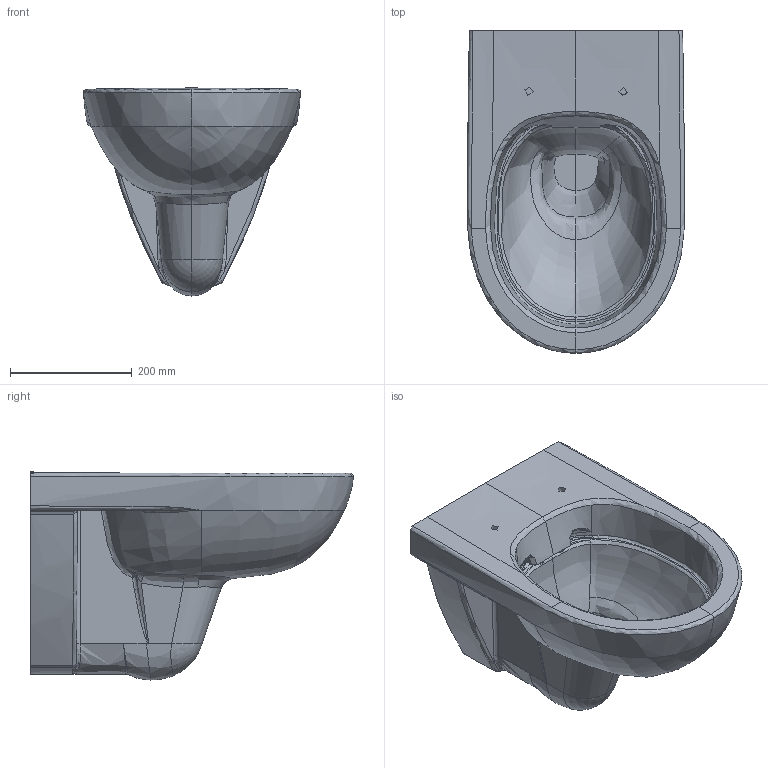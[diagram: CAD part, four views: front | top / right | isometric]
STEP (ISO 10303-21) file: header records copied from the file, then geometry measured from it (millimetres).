
FILE_DESCRIPTION(/* description */ (''),/* implementation_level */ '2;1');
FILE_NAME(/* name */ 'C:\Planerdaten\Export PLA\500.265.01.1\stp\500265.stp',/* time_stamp */ '2020-05-26T14:20:47+02:00',/* author */ ('JANAN'),/* organization */ (''),/* preprocessor_version */ 'ST-DEVELOPER v16.13',/* originating_system */ 'Autodesk Inventor 2018',/* authorisation */ '');
FILE_SCHEMA (('AUTOMOTIVE_DESIGN { 1 0 10303 214 3 1 1 }'));
Products named in the file (2): WWC-T Ge+Snv T53 Rfree; 500.265.01.1_P
Assembly tree (1 placements, depth 2):
  WWC-T Ge+Snv T53 Rfree
    500.265.01.1_P
Bounding box: 356.79 x 530.04 x 341.8 mm (x, y, z)
Volume: 15659937.5 mm3; surface area: 807618.7 mm2
Topology: 1 solids, 5 shells, 263 faces, 656 edges, 393 vertices
Faces by surface type: bspline 223, plane 30, cylinder 10
Entity records: 68688 total; most frequent: CARTESIAN_POINT 63656, ORIENTED_EDGE 1287, EDGE_CURVE 646, DIRECTION 496, VERTEX_POINT 393, B_SPLINE_CURVE_WITH_KNOTS 387, EDGE_LOOP 267, STYLED_ITEM 264
